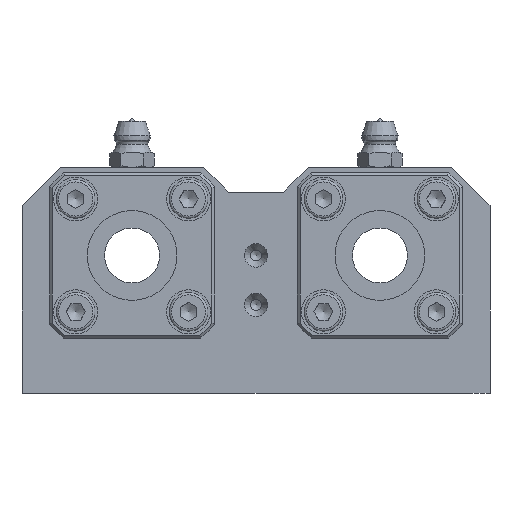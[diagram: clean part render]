
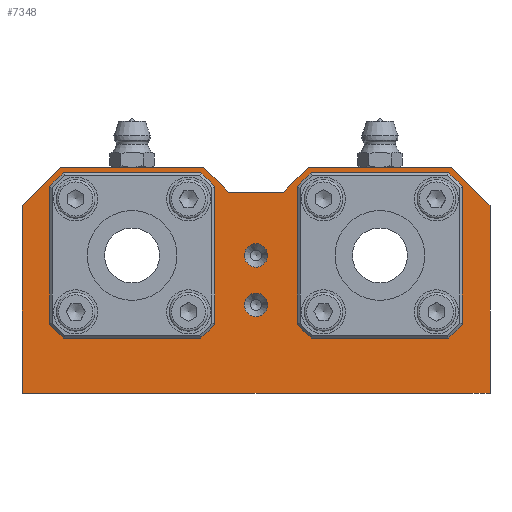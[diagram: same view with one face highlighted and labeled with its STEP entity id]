
A CAD part, left-side view. The second image highlights one B-rep face of the part: STEP entity #7348.
In plain terms, the highlighted planar face has unit normal (-1, 0, 0).
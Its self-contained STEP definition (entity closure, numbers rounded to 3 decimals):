
#6819=CARTESIAN_POINT('',(0.0,-42.5,0.0));
#6820=VERTEX_POINT('',#6819);
#6827=CARTESIAN_POINT('',(0.0,42.5,0.0));
#6828=VERTEX_POINT('',#6827);
#6829=CARTESIAN_POINT('',(0.0,42.5,0.0));
#6830=DIRECTION('',(0.0,-1.0,0.0));
#6831=VECTOR('',#6830,85.0);
#6832=LINE('',#6829,#6831);
#6833=EDGE_CURVE('',#6828,#6820,#6832,.T.);
#6888=CARTESIAN_POINT('',(0.0,-42.5,34.0));
#6889=VERTEX_POINT('',#6888);
#6896=CARTESIAN_POINT('',(0.0,-42.5,0.0));
#6897=DIRECTION('',(0.0,0.0,1.0));
#6898=VECTOR('',#6897,34.0);
#6899=LINE('',#6896,#6898);
#6900=EDGE_CURVE('',#6820,#6889,#6899,.T.);
#7129=CARTESIAN_POINT('',(0.0,9.5,41.));
#7130=VERTEX_POINT('',#7129);
#7137=CARTESIAN_POINT('',(0.0,5.0,36.5));
#7138=VERTEX_POINT('',#7137);
#7139=CARTESIAN_POINT('',(0.0,9.5,41.));
#7140=DIRECTION('',(0.0,-0.707,-0.707));
#7141=VECTOR('',#7140,6.364);
#7142=LINE('',#7139,#7141);
#7143=EDGE_CURVE('',#7130,#7138,#7142,.T.);
#7154=CARTESIAN_POINT('',(0.0,-42.5,0.0));
#7155=DIRECTION('',(-1.0,0.0,0.0));
#7156=DIRECTION('',(0.0,0.0,1.0));
#7157=AXIS2_PLACEMENT_3D('',#7154,#7155,#7156);
#7158=PLANE('',#7157);
#7159=ORIENTED_EDGE('',*,*,#7143,.F.);
#7160=CARTESIAN_POINT('',(0.0,35.5,41.));
#7161=VERTEX_POINT('',#7160);
#7162=CARTESIAN_POINT('',(0.0,9.5,41.));
#7163=DIRECTION('',(0.0,1.0,0.0));
#7164=VECTOR('',#7163,26.0);
#7165=LINE('',#7162,#7164);
#7166=EDGE_CURVE('',#7130,#7161,#7165,.T.);
#7167=ORIENTED_EDGE('',*,*,#7166,.T.);
#7168=CARTESIAN_POINT('',(0.0,42.5,34.0));
#7169=VERTEX_POINT('',#7168);
#7170=CARTESIAN_POINT('',(0.0,42.5,34.0));
#7171=DIRECTION('',(0.0,-0.707,0.707));
#7172=VECTOR('',#7171,9.899);
#7173=LINE('',#7170,#7172);
#7174=EDGE_CURVE('',#7169,#7161,#7173,.T.);
#7175=ORIENTED_EDGE('',*,*,#7174,.F.);
#7176=CARTESIAN_POINT('',(0.0,42.5,0.0));
#7177=DIRECTION('',(0.0,0.0,1.0));
#7178=VECTOR('',#7177,34.0);
#7179=LINE('',#7176,#7178);
#7180=EDGE_CURVE('',#6828,#7169,#7179,.T.);
#7181=ORIENTED_EDGE('',*,*,#7180,.F.);
#7182=ORIENTED_EDGE('',*,*,#6833,.T.);
#7183=ORIENTED_EDGE('',*,*,#6900,.T.);
#7184=CARTESIAN_POINT('',(0.0,-35.5,41.));
#7185=VERTEX_POINT('',#7184);
#7186=CARTESIAN_POINT('',(0.0,-35.5,41.));
#7187=DIRECTION('',(0.0,-0.707,-0.707));
#7188=VECTOR('',#7187,9.899);
#7189=LINE('',#7186,#7188);
#7190=EDGE_CURVE('',#7185,#6889,#7189,.T.);
#7191=ORIENTED_EDGE('',*,*,#7190,.F.);
#7192=CARTESIAN_POINT('',(0.0,-9.5,41.));
#7193=VERTEX_POINT('',#7192);
#7194=CARTESIAN_POINT('',(0.0,-35.5,41.));
#7195=DIRECTION('',(0.0,1.0,0.0));
#7196=VECTOR('',#7195,26.0);
#7197=LINE('',#7194,#7196);
#7198=EDGE_CURVE('',#7185,#7193,#7197,.T.);
#7199=ORIENTED_EDGE('',*,*,#7198,.T.);
#7200=CARTESIAN_POINT('',(0.0,-5.0,36.5));
#7201=VERTEX_POINT('',#7200);
#7202=CARTESIAN_POINT('',(0.0,-5.0,36.5));
#7203=DIRECTION('',(0.0,-0.707,0.707));
#7204=VECTOR('',#7203,6.364);
#7205=LINE('',#7202,#7204);
#7206=EDGE_CURVE('',#7201,#7193,#7205,.T.);
#7207=ORIENTED_EDGE('',*,*,#7206,.F.);
#7208=CARTESIAN_POINT('',(0.0,-5.0,36.5));
#7209=DIRECTION('',(0.0,1.0,0.0));
#7210=VECTOR('',#7209,10.0);
#7211=LINE('',#7208,#7210);
#7212=EDGE_CURVE('',#7201,#7138,#7211,.T.);
#7213=ORIENTED_EDGE('',*,*,#7212,.T.);
#7214=EDGE_LOOP('',(#7159,#7167,#7175,#7181,#7182,#7183,#7191,#7199,#7207,#7213));
#7215=FACE_OUTER_BOUND('',#7214,.T.);
#7216=CARTESIAN_POINT('',(0.0,12.247,33.253));
#7217=VERTEX_POINT('',#7216);
#7218=CARTESIAN_POINT('',(0.0,12.247,35.253));
#7219=DIRECTION('',(1.0,0.0,0.0));
#7220=DIRECTION('',(0.0,0.0,-1.0));
#7221=AXIS2_PLACEMENT_3D('',#7218,#7219,#7220);
#7222=CIRCLE('',#7221,2.0);
#7223=EDGE_CURVE('',#7217,#7217,#7222,.T.);
#7224=ORIENTED_EDGE('',*,*,#7223,.T.);
#7225=EDGE_LOOP('',(#7224));
#7226=FACE_BOUND('',#7225,.T.);
#7227=CARTESIAN_POINT('',(0.0,14.247,14.747));
#7228=VERTEX_POINT('',#7227);
#7229=CARTESIAN_POINT('',(0.0,12.247,14.747));
#7230=DIRECTION('',(1.0,0.0,0.0));
#7231=DIRECTION('',(0.0,1.0,0.0));
#7232=AXIS2_PLACEMENT_3D('',#7229,#7230,#7231);
#7233=CIRCLE('',#7232,2.0);
#7234=EDGE_CURVE('',#7228,#7228,#7233,.T.);
#7235=ORIENTED_EDGE('',*,*,#7234,.T.);
#7236=EDGE_LOOP('',(#7235));
#7237=FACE_BOUND('',#7236,.T.);
#7238=CARTESIAN_POINT('',(0.0,32.753,16.747));
#7239=VERTEX_POINT('',#7238);
#7240=CARTESIAN_POINT('',(0.0,32.753,14.747));
#7241=DIRECTION('',(1.0,0.0,0.0));
#7242=DIRECTION('',(0.0,0.0,1.0));
#7243=AXIS2_PLACEMENT_3D('',#7240,#7241,#7242);
#7244=CIRCLE('',#7243,2.0);
#7245=EDGE_CURVE('',#7239,#7239,#7244,.T.);
#7246=ORIENTED_EDGE('',*,*,#7245,.T.);
#7247=EDGE_LOOP('',(#7246));
#7248=FACE_BOUND('',#7247,.T.);
#7249=CARTESIAN_POINT('',(0.0,13.,25.0));
#7250=VERTEX_POINT('',#7249);
#7251=CARTESIAN_POINT('',(0.0,22.5,25.0));
#7252=DIRECTION('',(1.0,0.0,0.0));
#7253=DIRECTION('',(0.0,1.0,0.0));
#7254=AXIS2_PLACEMENT_3D('',#7251,#7252,#7253);
#7255=CIRCLE('',#7254,9.5);
#7256=EDGE_CURVE('',#7250,#7250,#7255,.T.);
#7257=ORIENTED_EDGE('',*,*,#7256,.T.);
#7258=EDGE_LOOP('',(#7257));
#7259=FACE_BOUND('',#7258,.T.);
#7260=CARTESIAN_POINT('',(0.0,30.753,35.253));
#7261=VERTEX_POINT('',#7260);
#7262=CARTESIAN_POINT('',(0.0,32.753,35.253));
#7263=DIRECTION('',(1.0,0.0,0.0));
#7264=DIRECTION('',(0.0,-1.0,0.0));
#7265=AXIS2_PLACEMENT_3D('',#7262,#7263,#7264);
#7266=CIRCLE('',#7265,2.0);
#7267=EDGE_CURVE('',#7261,#7261,#7266,.T.);
#7268=ORIENTED_EDGE('',*,*,#7267,.T.);
#7269=EDGE_LOOP('',(#7268));
#7270=FACE_BOUND('',#7269,.T.);
#7271=CARTESIAN_POINT('',(0.0,2.125,25.0));
#7272=VERTEX_POINT('',#7271);
#7273=CARTESIAN_POINT('',(0.0,0.0,25.0));
#7274=DIRECTION('',(1.0,0.0,0.0));
#7275=DIRECTION('',(0.0,1.0,0.0));
#7276=AXIS2_PLACEMENT_3D('',#7273,#7274,#7275);
#7277=CIRCLE('',#7276,2.125);
#7278=EDGE_CURVE('',#7272,#7272,#7277,.T.);
#7279=ORIENTED_EDGE('',*,*,#7278,.T.);
#7280=EDGE_LOOP('',(#7279));
#7281=FACE_BOUND('',#7280,.T.);
#7282=CARTESIAN_POINT('',(0.0,2.125,16.0));
#7283=VERTEX_POINT('',#7282);
#7284=CARTESIAN_POINT('',(0.0,0.,16.0));
#7285=DIRECTION('',(1.0,0.0,0.0));
#7286=DIRECTION('',(0.0,1.0,0.0));
#7287=AXIS2_PLACEMENT_3D('',#7284,#7285,#7286);
#7288=CIRCLE('',#7287,2.125);
#7289=EDGE_CURVE('',#7283,#7283,#7288,.T.);
#7290=ORIENTED_EDGE('',*,*,#7289,.T.);
#7291=EDGE_LOOP('',(#7290));
#7292=FACE_BOUND('',#7291,.T.);
#7293=CARTESIAN_POINT('',(0.0,-12.247,33.253));
#7294=VERTEX_POINT('',#7293);
#7295=CARTESIAN_POINT('',(0.0,-12.247,35.253));
#7296=DIRECTION('',(1.0,0.0,0.0));
#7297=DIRECTION('',(0.0,0.0,-1.0));
#7298=AXIS2_PLACEMENT_3D('',#7295,#7296,#7297);
#7299=CIRCLE('',#7298,2.0);
#7300=EDGE_CURVE('',#7294,#7294,#7299,.T.);
#7301=ORIENTED_EDGE('',*,*,#7300,.T.);
#7302=EDGE_LOOP('',(#7301));
#7303=FACE_BOUND('',#7302,.T.);
#7304=CARTESIAN_POINT('',(0.0,-14.247,14.747));
#7305=VERTEX_POINT('',#7304);
#7306=CARTESIAN_POINT('',(0.0,-12.247,14.747));
#7307=DIRECTION('',(1.0,0.0,0.0));
#7308=DIRECTION('',(0.0,-1.0,0.0));
#7309=AXIS2_PLACEMENT_3D('',#7306,#7307,#7308);
#7310=CIRCLE('',#7309,2.0);
#7311=EDGE_CURVE('',#7305,#7305,#7310,.T.);
#7312=ORIENTED_EDGE('',*,*,#7311,.T.);
#7313=EDGE_LOOP('',(#7312));
#7314=FACE_BOUND('',#7313,.T.);
#7315=CARTESIAN_POINT('',(0.0,-32.753,16.747));
#7316=VERTEX_POINT('',#7315);
#7317=CARTESIAN_POINT('',(0.0,-32.753,14.747));
#7318=DIRECTION('',(1.0,0.0,0.0));
#7319=DIRECTION('',(0.0,0.0,1.0));
#7320=AXIS2_PLACEMENT_3D('',#7317,#7318,#7319);
#7321=CIRCLE('',#7320,2.0);
#7322=EDGE_CURVE('',#7316,#7316,#7321,.T.);
#7323=ORIENTED_EDGE('',*,*,#7322,.T.);
#7324=EDGE_LOOP('',(#7323));
#7325=FACE_BOUND('',#7324,.T.);
#7326=CARTESIAN_POINT('',(0.0,-30.753,35.253));
#7327=VERTEX_POINT('',#7326);
#7328=CARTESIAN_POINT('',(0.0,-32.753,35.253));
#7329=DIRECTION('',(1.0,0.0,0.0));
#7330=DIRECTION('',(0.0,1.0,0.0));
#7331=AXIS2_PLACEMENT_3D('',#7328,#7329,#7330);
#7332=CIRCLE('',#7331,2.0);
#7333=EDGE_CURVE('',#7327,#7327,#7332,.T.);
#7334=ORIENTED_EDGE('',*,*,#7333,.T.);
#7335=EDGE_LOOP('',(#7334));
#7336=FACE_BOUND('',#7335,.T.);
#7337=CARTESIAN_POINT('',(0.0,-13.,25.0));
#7338=VERTEX_POINT('',#7337);
#7339=CARTESIAN_POINT('',(0.0,-22.5,25.0));
#7340=DIRECTION('',(1.0,0.0,0.0));
#7341=DIRECTION('',(0.0,-1.0,0.0));
#7342=AXIS2_PLACEMENT_3D('',#7339,#7340,#7341);
#7343=CIRCLE('',#7342,9.5);
#7344=EDGE_CURVE('',#7338,#7338,#7343,.T.);
#7345=ORIENTED_EDGE('',*,*,#7344,.T.);
#7346=EDGE_LOOP('',(#7345));
#7347=FACE_BOUND('',#7346,.T.);
#7348=ADVANCED_FACE('',(#7215,#7226,#7237,#7248,#7259,#7270,#7281,#7292,#7303,#7314,#7325,#7336,#7347),#7158,.T.);
